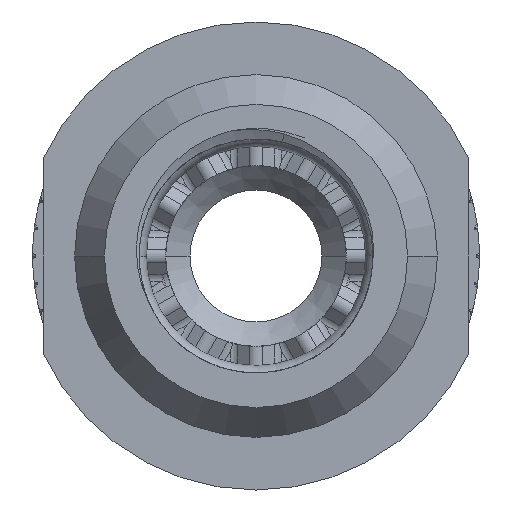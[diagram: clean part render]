
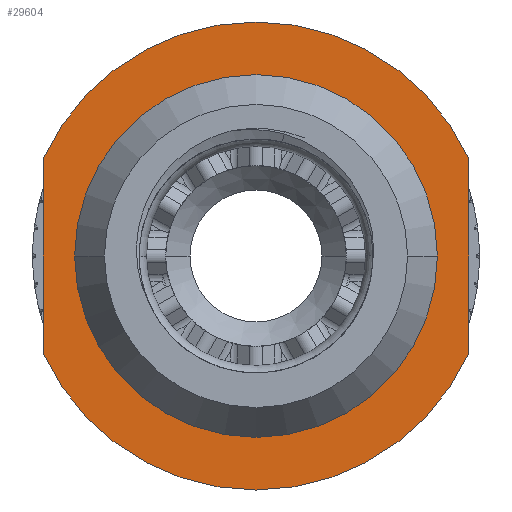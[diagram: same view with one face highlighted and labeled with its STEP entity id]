
A CAD part, left-side view. The second image highlights one B-rep face of the part: STEP entity #29604.
In plain terms, the highlighted planar face has unit normal (-1, 0, 0).
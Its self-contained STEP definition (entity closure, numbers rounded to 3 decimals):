
#5986=CARTESIAN_POINT('',(2.,0.,0.));
#5987=DIRECTION('',(-1.,0.,0.));
#5988=DIRECTION('',(0.,1.,0.));
#5989=AXIS2_PLACEMENT_3D('',#5986,#5987,#5988);
#5995=CARTESIAN_POINT('',(2.,0.,0.));
#5996=DIRECTION('',(1.,0.,0.));
#5997=DIRECTION('',(0.,1.,0.));
#5998=AXIS2_PLACEMENT_3D('',#5995,#5996,#5997);
#6004=DIRECTION('',(0.,0.,1.));
#6005=VECTOR('',#6004,9.165);
#6006=CARTESIAN_POINT('',(2.,10.,-4.583));
#6007=LINE('',#6006,#6005);
#6008=DIRECTION('',(0.,0.,1.));
#6009=VECTOR('',#6008,9.165);
#6010=CARTESIAN_POINT('',(2.,-10.,-4.583));
#6011=LINE('',#6010,#6009);
#6025=CARTESIAN_POINT('',(2.,0.,0.));
#6026=DIRECTION('',(-1.,0.,0.));
#6027=DIRECTION('',(0.,-0.909,0.417));
#6028=AXIS2_PLACEMENT_3D('',#6025,#6026,#6027);
#6034=CARTESIAN_POINT('',(2.,0.,0.));
#6035=DIRECTION('',(-1.,0.,0.));
#6036=DIRECTION('',(0.,0.909,-0.417));
#6037=AXIS2_PLACEMENT_3D('',#6034,#6035,#6036);
#26889=CARTESIAN_POINT('',(2.,8.525,0.));
#26891=VERTEX_POINT('',#26889);
#26909=CARTESIAN_POINT('',(2.,-8.525,0.));
#26911=VERTEX_POINT('',#26909);
#26917=CARTESIAN_POINT('',(2.,-10.,-4.583));
#26918=VERTEX_POINT('',#26917);
#26919=CARTESIAN_POINT('',(2.,-10.,4.583));
#26920=VERTEX_POINT('',#26919);
#26925=CARTESIAN_POINT('',(2.,10.,4.583));
#26926=VERTEX_POINT('',#26925);
#26927=CARTESIAN_POINT('',(2.,10.,-4.583));
#26928=VERTEX_POINT('',#26927);
#29585=CARTESIAN_POINT('',(2.,0.,0.));
#29586=DIRECTION('',(-1.,0.,0.));
#29587=DIRECTION('',(0.,1.,0.));
#29588=AXIS2_PLACEMENT_3D('',#29585,#29586,#29587);
#29589=PLANE('',#29588);
#29591=ORIENTED_EDGE('',*,*,#29590,.T.);
#29593=ORIENTED_EDGE('',*,*,#29592,.F.);
#29595=ORIENTED_EDGE('',*,*,#29594,.F.);
#29597=ORIENTED_EDGE('',*,*,#29596,.F.);
#29598=EDGE_LOOP('',(#29591,#29593,#29595,#29597));
#29599=FACE_OUTER_BOUND('',#29598,.F.);
#29600=ORIENTED_EDGE('',*,*,#29578,.F.);
#29601=ORIENTED_EDGE('',*,*,#29567,.T.);
#29602=EDGE_LOOP('',(#29600,#29601));
#29603=FACE_BOUND('',#29602,.F.);
#29604=ADVANCED_FACE('',(#29599,#29603),#29589,.T.);
#5990=CIRCLE('',#5989,8.525);
#5999=CIRCLE('',#5998,8.525);
#6029=CIRCLE('',#6028,11.);
#6038=CIRCLE('',#6037,11.);
#29567=EDGE_CURVE('',#26891,#26911,#5990,.T.);
#29578=EDGE_CURVE('',#26891,#26911,#5999,.T.);
#29590=EDGE_CURVE('',#26928,#26926,#6007,.T.);
#29592=EDGE_CURVE('',#26920,#26926,#6029,.T.);
#29594=EDGE_CURVE('',#26918,#26920,#6011,.T.);
#29596=EDGE_CURVE('',#26928,#26918,#6038,.T.);
